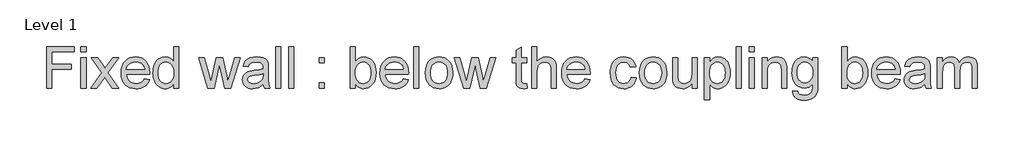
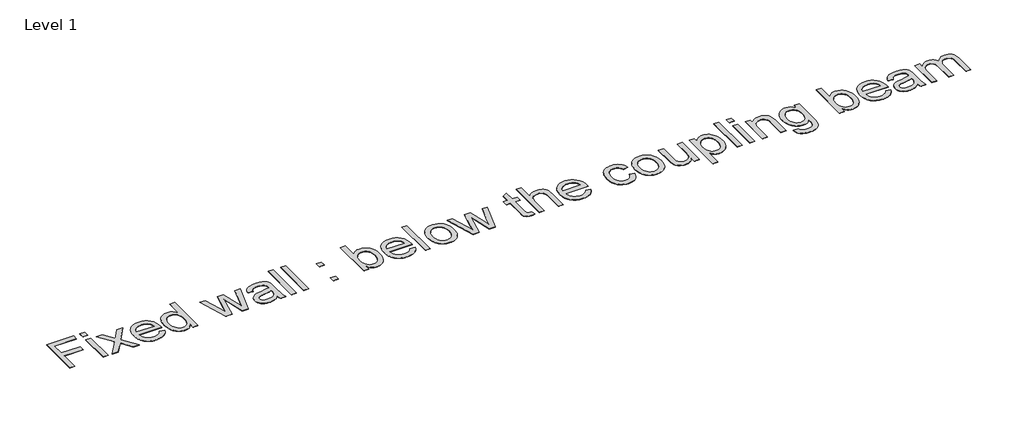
# One storey, part 36 of 80: 1 proxy.
"""IFC4 building model written with IfcOpenShell, lengths in millimetres."""

from ifc_helpers import new_model, si_unit, origin, origin_with_axes, place, context, project, spatial, polyline, outline, extrude, element, save

model = new_model("IFC4")

# Units and contexts
model_context = context("Model", 3, world=origin())
ifc_project = project(units=[si_unit("LENGTHUNIT", "METRE", prefix="MILLI")], contexts=[model_context])

# Site, building, storey
site = spatial("IfcSite", under=ifc_project)
building = spatial("IfcBuilding", under=site)
storey = spatial("IfcBuildingStorey", under=building, Name="Level 1", Elevation=0.0)

# Proxy
placement = place(None, origin())
element("IfcBuildingElementProxy", 1, Name="800mm Arial", ObjectType="800mm Arial", at=placement, inside=storey, context=model_context, shape_type="SweptSolid", body=[
    extrude(outline(polyline([(415501.4348573, -25390.2605409), (415501.4348573, -24590.8718426), (416038.524139, -24590.8718426), (416038.524139, -24690.7954299), (415601.3584446, -24690.7954299), (415601.3584446, -24928.1139497), (415976.0718969, -24928.1139497), (415976.0718969, -25028.037537), (415601.3584446, -25028.037537), (415601.3584446, -25390.2605409), (415501.4348573, -25390.2605409)])), origin_with_axes(), (0.0, 0.0, 1.0), 5.0),
    extrude(outline(polyline([(416163.4286231, -24690.7954299), (416163.4286231, -24590.8718426), (416263.3522104, -24590.8718426), (416263.3522104, -24690.7954299), (416163.4286231, -24690.7954299)])), origin_with_axes(), (0.0, 0.0, 1.0), 5.0),
    extrude(outline(polyline([(416163.4286231, -25390.2605409), (416163.4286231, -24803.2094656), (416263.3522104, -24803.2094656), (416263.3522104, -25390.2605409), (416163.4286231, -25390.2605409)])), origin_with_axes(), (0.0, 0.0, 1.0), 5.0),
    extrude(outline(polyline([(416350.7853493, -25390.2605409), (416564.2939518, -25095.1736972), (416363.2757977, -24803.2094656), (416483.4963636, -24803.2094656), (416580.4925021, -24943.7270102), (416625.7703776, -25010.0825174), (416664.9981921, -24955.8271321), (416775.4605952, -24803.2094656), (416895.6811612, -24803.2094656), (416684.5145177, -25095.1736972), (416887.874631, -25390.2605409), (416767.654065, -25390.2605409), (416645.2867032, -25212.8571408), (416622.8429287, -25180.4600402), (416471.0059152, -25390.2605409), (416350.7853493, -25390.2605409)])), origin_with_axes(), (0.0, 0.0, 1.0), 5.0),
    extrude(outline(polyline([(417386.3215879, -25215.3942631), (417484.2935426, -25227.8847116), (417469.2720707, -25267.1247238), (417448.9933886, -25301.7052133), (417423.4574963, -25331.6261801), (417392.6643937, -25356.8876241), (417356.9312212, -25376.9528464), (417316.5751191, -25391.285148), (417271.5960874, -25399.884529), (417221.994126, -25402.7509893), (417159.9931989, -25397.8048205), (417104.7497997, -25382.9663142), (417056.2639281, -25358.2354703), (417014.5355844, -25323.6122888), (416980.979702, -25280.0603884), (416957.0112145, -25228.5433875), (416942.6301221, -25169.0612863), (416937.8364246, -25101.6140846), (416942.6789129, -25031.8798136), (416957.2063778, -24970.4155855), (416981.4188193, -24917.2214004), (416997.1569063, -24893.725574), (417015.3162374, -24872.2972583), (417056.9348018, -24836.6067778), (417104.3106823, -24811.1135774), (417157.4438789, -24795.8176572), (417216.3343915, -24790.7190172), (417273.3281613, -24795.8054595), (417324.8695575, -24811.0647866), (417370.9585803, -24836.4969985), (417411.5952296, -24872.1020951), (417444.7668843, -24916.9286555), (417468.4609234, -24970.025259), (417482.6773469, -25031.3919054), (417487.4161547, -25101.0285949), (417486.8306649, -25127.9611243), (417037.7600119, -25127.9611243), (417043.5478222, -25167.8354171), (417055.0563555, -25202.7574423), (417072.2856117, -25232.7271999), (417095.2355909, -25257.7446898), (417122.6377319, -25277.4683764), (417153.2234735, -25291.556724), (417186.9928157, -25300.0097325), (417223.9457585, -25302.827402), (417277.1277459, -25297.6067849), (417321.9177133, -25281.9449336), (417341.1656894, -25269.954591), (417358.3156606, -25254.8660318), (417373.3676267, -25236.6792558), (417386.3215879, -25215.3942631)]), holes=[polyline([(417037.7600119, -25028.037537), (417387.4925674, -25028.037537), (417382.3573342, -24999.7632602), (417373.9775119, -24975.2458761), (417362.3531004, -24954.4853847), (417347.4840998, -24937.481786), (417320.2344302, -24916.9896441), (417289.2278678, -24902.3523998), (417254.4644127, -24893.5700533), (417215.944065, -24890.6426044), (417180.80858, -24892.9784647), (417148.5883461, -24899.9860453), (417119.2833634, -24911.6653465), (417092.8936318, -24928.0163681), (417070.7487011, -24948.2828525), (417054.1781208, -24971.7085421), (417043.1818911, -24998.2934369), (417037.7600119, -25028.037537)])]), origin_with_axes(), (0.0, 0.0, 1.0), 5.0),
    extrude(outline(polyline([(417949.5627459, -25390.2605409), (417949.5627459, -25295.9966881), (417919.6661746, -25342.7016949), (417902.348485, -25361.0500904), (417883.4511928, -25376.062414), (417862.974298, -25387.7386657), (417840.9178006, -25396.0788455), (417817.2817006, -25401.0829534), (417792.065998, -25402.7509893), (417759.0834077, -25400.335844), (417727.4669601, -25393.0904081), (417697.2166554, -25381.0146816), (417668.3324934, -25364.1086645), (417641.7171043, -25342.8785616), (417618.2731181, -25317.8305774), (417598.0005349, -25288.964712), (417580.8993545, -25256.2809654), (417567.3233105, -25220.4014204), (417557.6261362, -25181.9481601), (417551.8078316, -25140.9211843), (417549.8683968, -25097.320493), (417551.6553603, -25054.5187513), (417557.016251, -25013.7418284), (417565.9510689, -24974.9897243), (417578.4598138, -24938.262439), (417594.5363871, -24904.6333704), (417614.1746898, -24875.1759164), (417637.3747219, -24849.890077), (417664.1364834, -24828.7758522), (417693.5146523, -24812.1259868), (417724.5639067, -24800.2332259), (417757.2842464, -24793.0975693), (417791.6756715, -24790.7190172), (417816.8273362, -24792.4205968), (417840.5640672, -24797.5253357), (417862.8858647, -24806.0332339), (417883.7927285, -24817.9442914), (417920.4346299, -24849.2435987), (417949.5627459, -24888.6909719), (417949.5627459, -24590.8718426), (418049.4863332, -24590.8718426), (418049.4863332, -25390.2605409), (417949.5627459, -25390.2605409)]), holes=[polyline([(417649.7919841, -25096.9301665), (417652.6096536, -25145.3855438), (417661.0626621, -25187.3151496), (417675.1510097, -25222.7189841), (417694.8746963, -25251.5970472), (417718.4284618, -25274.0103274), (417744.0070461, -25290.0198133), (417771.6104492, -25299.6255049), (417801.238671, -25302.827402), (417831.0071665, -25299.7718773), (417858.4459006, -25290.6053031), (417883.5548733, -25275.3276794), (417906.3340846, -25253.9390063), (417925.246624, -25226.2685158), (417938.7555806, -25192.1454402), (417946.8609546, -25151.5697794), (417949.5627459, -25104.5415335), (417946.8121638, -25052.9818407), (417938.5604174, -25008.7651654), (417924.8075066, -24971.8915076), (417905.5534316, -24942.3608674), (417882.2741144, -24919.7341274), (417856.4454772, -24903.5721702), (417828.06752, -24893.8749959), (417797.1402427, -24890.6426044), (417766.926531, -24893.74692), (417739.3231279, -24903.0598666), (417714.3300334, -24918.5814444), (417691.9472474, -24940.3116532), (417673.5043197, -24968.7262036), (417660.3307999, -25004.3008059), (417652.426688, -25047.0354602), (417649.7919841, -25096.9301665)])]), origin_with_axes(), (0.0, 0.0, 1.0), 5.0),
    extrude(outline(polyline([(418609.0193894, -25390.2605409), (418430.4450098, -24803.2094656), (418534.2718622, -24803.2094656), (418635.5615923, -25145.7209806), (418665.811897, -25268.0883424), (418690.5976306, -25150.2097355), (418771.2000555, -24803.2094656), (418890.2496419, -24803.2094656), (418970.4617403, -25149.2339192), (418992.5151883, -25255.9882205), (419024.1316358, -25143.3790215), (419125.6165292, -24803.2094656), (419229.8337081, -24803.2094656), (419049.8931857, -25390.2605409), (418929.08713, -25390.2605409), (418852.3879702, -25045.9925566), (418830.139359, -24938.6527655), (418731.1915879, -25390.2605409), (418609.0193894, -25390.2605409)])), origin_with_axes(), (0.0, 0.0, 1.0), 5.0),
    extrude(outline(polyline([(419673.2446267, -25315.3178504), (419625.5028151, -25356.2533435), (419601.1013092, -25371.415089), (419576.3460699, -25383.0395004), (419524.6522024, -25397.8231171), (419469.2990238, -25402.7509893), (419424.8079002, -25399.7869474), (419385.7935454, -25390.8948215), (419352.2559596, -25376.0746117), (419324.1951426, -25355.326318), (419302.0380142, -25329.9672924), (419286.2114938, -25301.3148868), (419276.7155816, -25269.3691013), (419273.5502776, -25234.1299358), (419278.3317773, -25192.7065346), (419292.6762767, -25155.0888169), (419314.8029109, -25122.8868796), (419342.9308152, -25097.7108195), (419375.9865918, -25078.682402), (419412.8968427, -25064.9233924), (419499.3541653, -25049.8958217), (419601.52213, -25034.0875979), (419672.659137, -25015.5470886), (419673.2446267, -24993.2984773), (419671.5247505, -24969.0738381), (419666.3651219, -24948.7036732), (419657.765741, -24932.1879827), (419645.7266076, -24919.5267664), (419624.9173254, -24906.8899455), (419599.5704974, -24897.8636449), (419569.6861238, -24892.4478646), (419535.2642044, -24890.6426044), (419475.7394112, -24895.4484996), (419452.710147, -24901.4558686), (419434.1696376, -24909.8661852), (419418.9347059, -24921.3381254), (419405.8221746, -24936.5303651), (419394.8320437, -24955.4429044), (419385.9643133, -24978.0757433), (419286.040726, -24965.5852949), (419303.3858604, -24910.9395831), (419315.2603248, -24888.0079005), (419329.2693873, -24868.0036667), (419346.0168342, -24850.5243575), (419366.1064519, -24835.1674488), (419389.5382404, -24821.9329405), (419416.3121996, -24810.8208326), (419477.7154392, -24795.744471), (419548.1449794, -24790.7190172), (419615.6958615, -24795.1589812), (419669.24378, -24808.4788735), (419709.6181787, -24828.5075027), (419737.6485014, -24853.0736776), (419756.2378015, -24883.4459594), (419768.2891326, -24920.8929092), (419771.9484437, -24955.4368056), (419773.168214, -25008.3260481), (419773.168214, -25132.6450424), (419774.4367752, -25240.9362543), (419778.2424587, -25306.242759), (419785.7562441, -25349.15428), (419798.1491109, -25390.2605409), (419698.2255236, -25390.2605409), (419682.2221365, -25355.5214813), (419673.2446267, -25315.3178504)]), holes=[polyline([(419673.2446267, -25115.4706759), (419606.1084665, -25132.1083435), (419512.0397769, -25146.1113071), (419460.1995369, -25153.7714649), (419426.0703625, -25162.3098574), (419403.6997742, -25173.3853722), (419387.1352928, -25188.656897), (419376.8892218, -25206.9534523), (419373.4738649, -25227.1040585), (419375.3340146, -25242.6317351), (419380.914464, -25256.8176643), (419390.2152129, -25269.6618461), (419403.2362615, -25281.1642806), (419419.8556325, -25290.6418962), (419439.9513491, -25297.4116217), (419490.5718187, -25302.827402), (419544.2417142, -25296.8505273), (419568.7347029, -25289.3794339), (419591.6663855, -25278.9199031), (419630.1135471, -25252.4996773), (419656.8509132, -25221.0539976), (419668.707081, -25188.656897), (419672.659137, -25143.769348), (419673.2446267, -25115.4706759)])]), origin_with_axes(), (0.0, 0.0, 1.0), 5.0),
    extrude(outline(polyline([(419910.5631466, -25390.2605409), (419910.5631466, -24590.8718426), (420010.4867338, -24590.8718426), (420010.4867338, -25390.2605409), (419910.5631466, -25390.2605409)])), origin_with_axes(), (0.0, 0.0, 1.0), 5.0),
    extrude(outline(polyline([(420160.3721148, -25390.2605409), (420160.3721148, -24590.8718426), (420260.2957021, -24590.8718426), (420260.2957021, -25390.2605409), (420160.3721148, -25390.2605409)])), origin_with_axes(), (0.0, 0.0, 1.0), 5.0),
    extrude(outline(polyline([(420747.4231901, -24903.1330529), (420747.4231901, -24803.2094656), (420847.3467774, -24803.2094656), (420847.3467774, -24903.1330529), (420747.4231901, -24903.1330529)])), origin_with_axes(), (0.0, 0.0, 1.0), 5.0),
    extrude(outline(polyline([(420747.4231901, -25390.2605409), (420747.4231901, -25290.3369536), (420847.3467774, -25290.3369536), (420847.3467774, -25390.2605409), (420747.4231901, -25390.2605409)])), origin_with_axes(), (0.0, 0.0, 1.0), 5.0),
    extrude(outline(polyline([(421446.8883012, -25390.2605409), (421346.9647139, -25390.2605409), (421346.9647139, -24590.8718426), (421446.8883012, -24590.8718426), (421446.8883012, -24887.3248291), (421479.7489145, -24845.0597864), (421516.8543286, -24814.8704701), (421536.998836, -24804.3042095), (421558.2045436, -24796.7568804), (421603.7995594, -24790.7190172), (421655.2738682, -24796.1591929), (421703.9183099, -24812.4797202), (421746.9518079, -24838.655992), (421781.593286, -24873.6634011), (421808.745374, -24917.1604119), (421829.3107022, -24968.8054886), (421842.2646633, -25026.4518355), (421846.5826504, -25087.9526567), (421842.112192, -25158.9188958), (421828.700817, -25221.3467425), (421806.3485253, -25275.2361966), (421775.0553169, -25320.5872584), (421737.4924889, -25356.5338907), (421696.3313383, -25382.2100566), (421651.5718652, -25397.6157561), (421603.2140696, -25402.7509893), (421578.9985787, -25401.0951511), (421556.1187363, -25396.1276363), (421534.5745424, -25387.848445), (421514.3659971, -25376.2575773), (421495.4931003, -25361.355033), (421477.9558521, -25343.1408122), (421446.8883012, -25296.7773411), (421446.8883012, -25390.2605409)]), holes=[polyline([(421446.8883012, -25092.6365749), (421448.5959797, -25137.6704963), (421453.7190152, -25175.9712853), (421462.2574076, -25207.5389421), (421474.2111571, -25232.3734665), (421498.4235986, -25263.1970633), (421526.5637006, -25285.2139181), (421558.6314632, -25298.4240311), (421594.6268863, -25302.827402), (421624.5112599, -25299.5828129), (421652.2976286, -25289.8490455), (421677.9859922, -25273.6260998), (421701.5763508, -25250.9139758), (421721.3000374, -25221.7736621), (421735.388385, -25186.2661471), (421743.8413935, -25144.3914309), (421746.6590631, -25096.1495135), (421743.9572717, -25046.9927683), (421735.8518977, -25004.7155278), (421722.3429411, -24969.3177922), (421703.4304018, -24940.7995613), (421680.6877835, -24918.8558927), (421655.6885902, -24903.1818437), (421628.4328216, -24893.7774143), (421598.9204779, -24890.6426044), (421569.0361043, -24893.8871936), (421541.2497357, -24903.620961), (421515.561372, -24919.8439067), (421491.9710134, -24942.5560307), (421472.2473268, -24971.4035995), (421458.1589792, -25006.0328798), (421449.7059707, -25046.4438716), (421446.8883012, -25092.6365749)])]), origin_with_axes(), (0.0, 0.0, 1.0), 5.0),
    extrude(outline(polyline([(422370.0105041, -25215.3942631), (422467.9824588, -25227.8847116), (422452.9609869, -25267.1247238), (422432.6823048, -25301.7052133), (422407.1464125, -25331.6261801), (422376.3533099, -25356.8876241), (422340.6201375, -25376.9528464), (422300.2640353, -25391.285148), (422255.2850036, -25399.884529), (422205.6830422, -25402.7509893), (422143.6821152, -25397.8048205), (422088.4387159, -25382.9663142), (422039.9528444, -25358.2354703), (421998.2245006, -25323.6122888), (421964.6686182, -25280.0603884), (421940.7001308, -25228.5433875), (421926.3190383, -25169.0612863), (421921.5253408, -25101.6140846), (421926.3678291, -25031.8798136), (421940.895294, -24970.4155855), (421965.1077355, -24917.2214004), (421980.8458225, -24893.725574), (421999.0051536, -24872.2972583), (422040.6237181, -24836.6067778), (422087.9995986, -24811.1135774), (422141.1327951, -24795.8176572), (422200.0233078, -24790.7190172), (422257.0170775, -24795.8054595), (422308.5584737, -24811.0647866), (422354.6474965, -24836.4969985), (422395.2841458, -24872.1020951), (422428.4558006, -24916.9286555), (422452.1498397, -24970.025259), (422466.3662631, -25031.3919054), (422471.1050709, -25101.0285949), (422470.5195812, -25127.9611243), (422021.4489281, -25127.9611243), (422027.2367384, -25167.8354171), (422038.7452717, -25202.7574423), (422055.9745279, -25232.7271999), (422078.9245071, -25257.7446898), (422106.3266481, -25277.4683764), (422136.9123897, -25291.556724), (422170.6817319, -25300.0097325), (422207.6346748, -25302.827402), (422260.8166621, -25297.6067849), (422305.6066295, -25281.9449336), (422324.8546056, -25269.954591), (422342.0045768, -25254.8660318), (422357.056543, -25236.6792558), (422370.0105041, -25215.3942631)]), holes=[polyline([(422021.4489281, -25028.037537), (422371.1814836, -25028.037537), (422366.0462505, -24999.7632602), (422357.6664281, -24975.2458761), (422346.0420167, -24954.4853847), (422331.1730161, -24937.481786), (422303.9233464, -24916.9896441), (422272.916784, -24902.3523998), (422238.153329, -24893.5700533), (422199.6329812, -24890.6426044), (422164.4974962, -24892.9784647), (422132.2772624, -24899.9860453), (422102.9722796, -24911.6653465), (422076.5825481, -24928.0163681), (422054.4376173, -24948.2828525), (422037.8670371, -24971.7085421), (422026.8708073, -24998.2934369), (422021.4489281, -25028.037537)])]), origin_with_axes(), (0.0, 0.0, 1.0), 5.0),
    extrude(outline(polyline([(422571.0286582, -25390.2605409), (422571.0286582, -24590.8718426), (422670.9522455, -24590.8718426), (422670.9522455, -25390.2605409), (422571.0286582, -25390.2605409)])), origin_with_axes(), (0.0, 0.0, 1.0), 5.0),
    extrude(outline(polyline([(422795.8567296, -25096.7350032), (422801.2603123, -25020.7067172), (422808.0147906, -24986.6354818), (422817.4710603, -24955.1928515), (422829.6291213, -24926.3788264), (422844.4889736, -24900.1934063), (422862.0506172, -24876.6365914), (422882.3140522, -24855.7083815), (422920.3952826, -24827.2755346), (422962.428569, -24806.9663582), (423008.4139113, -24794.7808524), (423058.3513095, -24790.7190172), (423113.4788306, -24795.6651859), (423163.3247461, -24810.5036923), (423207.8890559, -24835.2345362), (423247.1717601, -24869.8577176), (423279.2334239, -24913.2022571), (423302.1346122, -24964.0971751), (423315.8753252, -25022.5424715), (423320.4555629, -25088.5381465), (423318.4307441, -25142.0250764), (423312.3562878, -25189.4863409), (423302.2321939, -25230.9219397), (423288.0584624, -25266.3318731), (423270.01196, -25296.9176147), (423248.2695534, -25323.8806383), (423222.8312427, -25347.220944), (423193.6970279, -25366.9385318), (423162.0012953, -25382.6064819), (423128.8784313, -25393.7978749), (423094.3284361, -25400.5127107), (423058.3513095, -25402.7509893), (423002.41874, -25397.8231171), (422952.1093118, -25383.0395004), (422907.4230249, -25358.4001393), (422868.3598794, -25323.9050337), (422836.6397514, -25280.1396735), (422813.9825171, -25227.6895483), (422800.3881765, -25166.5546582), (422795.8567296, -25096.7350032)]), holes=[polyline([(422895.7803169, -25096.53984), (422898.6711727, -25145.0074149), (422907.3437399, -25186.9736139), (422921.7980186, -25222.4384369), (422942.0340087, -25251.401884), (422966.6489744, -25273.9005481), (422994.2401798, -25289.9710225), (423024.8076248, -25299.6133071), (423058.3513095, -25302.827402), (423091.7242264, -25299.5950106), (423122.1696944, -25289.8978363), (423149.6877135, -25273.7358791), (423174.2782839, -25251.1091391), (423194.514274, -25221.859046), (423208.9685527, -25185.8270298), (423217.6411199, -25143.0130904), (423220.5319756, -25093.4172279), (423217.6228233, -25046.4865636), (423208.8953665, -25005.6181579), (423194.349605, -24970.8120109), (423173.985539, -24942.0681225), (423149.3034859, -24919.5694584), (423121.8037633, -24903.498984), (423091.4863712, -24893.8566993), (423058.3513095, -24890.6426044), (423024.8076248, -24893.8445016), (422994.2401798, -24903.4501931), (422966.6489744, -24919.459679), (422942.0340087, -24941.8729593), (422921.7980186, -24970.7510224), (422907.3437399, -25006.1548568), (422898.6711727, -25048.0844627), (422895.7803169, -25096.53984)])]), origin_with_axes(), (0.0, 0.0, 1.0), 5.0),
    extrude(outline(polyline([(423530.2560636, -25390.2605409), (423351.681684, -24803.2094656), (423455.5085364, -24803.2094656), (423556.7982665, -25145.7209806), (423587.0485712, -25268.0883424), (423611.8343048, -25150.2097355), (423692.4367297, -24803.2094656), (423811.4863161, -24803.2094656), (423891.6984145, -25149.2339192), (423913.7518625, -25255.9882205), (423945.36831, -25143.3790215), (424046.8532034, -24803.2094656), (424151.0703823, -24803.2094656), (423971.1298599, -25390.2605409), (423850.3238041, -25390.2605409), (423773.6246444, -25045.9925566), (423751.3760331, -24938.6527655), (423652.4282621, -25390.2605409), (423530.2560636, -25390.2605409)])), origin_with_axes(), (0.0, 0.0, 1.0), 5.0),
    extrude(outline(polyline([(424744.3666818, -25306.9258304), (424756.8571303, -25393.1879898), (424717.28778, -25400.3602394), (424682.109603, -25402.7509893), (424634.1482328, -25398.6037701), (424598.384566, -25386.1621125), (424573.1109243, -25366.9873226), (424556.6196292, -25342.6407063), (424547.5445377, -25300.8269786), (424544.5195073, -25229.2508544), (424544.5195073, -24903.1330529), (424469.5768168, -24903.1330529), (424469.5768168, -24803.2094656), (424544.5195073, -24803.2094656), (424544.5195073, -24660.5451251), (424644.4430946, -24601.8009849), (424644.4430946, -24803.2094656), (424744.3666818, -24803.2094656), (424744.3666818, -24903.1330529), (424644.4430946, -24903.1330529), (424644.4430946, -25226.3234055), (424645.7604465, -25259.2084142), (424649.7125025, -25277.8465052), (424656.6164027, -25288.1657624), (424666.7892874, -25296.0942697), (424681.206973, -25301.1441189), (424700.8452757, -25302.827402), (424744.3666818, -25306.9258304)])), origin_with_axes(), (0.0, 0.0, 1.0), 5.0),
    extrude(outline(polyline([(424844.2902691, -25390.2605409), (424844.2902691, -24590.8718426), (424944.2138564, -24590.8718426), (424944.2138564, -24884.7877068), (424980.9167463, -24843.6326551), (425022.1327866, -24814.2361896), (425067.8619771, -24796.5983103), (425118.1043179, -24790.7190172), (425149.3426366, -24792.3230152), (425178.458555, -24797.1350092), (425205.4520729, -24805.1549993), (425230.3231904, -24816.3829854), (425252.4376269, -24830.4408387), (425271.1611018, -24846.9504304), (425286.4936151, -24865.9117605), (425298.4351669, -24887.3248291), (425307.4004789, -24912.5130869), (425313.8042733, -24942.7999847), (425318.9273088, -25018.6697007), (425318.9273088, -25390.2605409), (425219.0037215, -25390.2605409), (425219.0037215, -25029.0133533), (425217.0154958, -24995.2745053), (425211.0508188, -24966.4635296), (425201.1096904, -24942.5804261), (425187.1921107, -24923.6251948), (425169.6274176, -24909.1953115), (425148.7449492, -24898.888252), (425124.5447054, -24892.7040163), (425097.0266862, -24890.6426044), (425054.7982366, -24896.2047573), (425015.1557001, -24912.8912157), (424997.3592507, -24925.0035353), (424982.3194822, -24939.0918829), (424970.0363948, -24955.1562584), (424960.5099883, -24973.1966619), (424948.2878894, -25018.5233282), (424944.2138564, -25078.3896571), (424944.2138564, -25390.2605409), (424844.2902691, -25390.2605409)])), origin_with_axes(), (0.0, 0.0, 1.0), 5.0),
    extrude(outline(polyline([(425867.3360593, -25215.3942631), (425965.3080141, -25227.8847116), (425950.2865422, -25267.1247238), (425930.0078601, -25301.7052133), (425904.4719677, -25331.6261801), (425873.6788652, -25356.8876241), (425837.9456927, -25376.9528464), (425797.5895906, -25391.285148), (425752.6105588, -25399.884529), (425703.0085974, -25402.7509893), (425641.0076704, -25397.8048205), (425585.7642711, -25382.9663142), (425537.2783996, -25358.2354703), (425495.5500558, -25323.6122888), (425461.9941734, -25280.0603884), (425438.025686, -25228.5433875), (425423.6445936, -25169.0612863), (425418.8508961, -25101.6140846), (425423.6933844, -25031.8798136), (425438.2208493, -24970.4155855), (425462.4332908, -24917.2214004), (425478.1713777, -24893.725574), (425496.3307089, -24872.2972583), (425537.9492733, -24836.6067778), (425585.3251538, -24811.1135774), (425638.4583504, -24795.8176572), (425697.348863, -24790.7190172), (425754.3426327, -24795.8054595), (425805.884029, -24811.0647866), (425851.9730518, -24836.4969985), (425892.6097011, -24872.1020951), (425925.7813558, -24916.9286555), (425949.4753949, -24970.025259), (425963.6918184, -25031.3919054), (425968.4306262, -25101.0285949), (425967.8451364, -25127.9611243), (425518.7744834, -25127.9611243), (425524.5622937, -25167.8354171), (425536.070827, -25202.7574423), (425553.3000832, -25232.7271999), (425576.2500624, -25257.7446898), (425603.6522034, -25277.4683764), (425634.2379449, -25291.556724), (425668.0072872, -25300.0097325), (425704.96023, -25302.827402), (425758.1422174, -25297.6067849), (425802.9321847, -25281.9449336), (425822.1801609, -25269.954591), (425839.3301321, -25254.8660318), (425854.3820982, -25236.6792558), (425867.3360593, -25215.3942631)]), holes=[polyline([(425518.7744834, -25028.037537), (425868.5070389, -25028.037537), (425863.3718057, -24999.7632602), (425854.9919834, -24975.2458761), (425843.3675719, -24954.4853847), (425828.4985713, -24937.481786), (425801.2489016, -24916.9896441), (425770.2423393, -24902.3523998), (425735.4788842, -24893.5700533), (425696.9585365, -24890.6426044), (425661.8230515, -24892.9784647), (425629.6028176, -24899.9860453), (425600.2978349, -24911.6653465), (425573.9081033, -24928.0163681), (425551.7631726, -24948.2828525), (425535.1925923, -24971.7085421), (425524.1963626, -24998.2934369), (425518.7744834, -25028.037537)])]), origin_with_axes(), (0.0, 0.0, 1.0), 5.0),
    extrude(outline(polyline([(426755.3288761, -25177.9229179), (426855.2524634, -25190.4133663), (426844.3843096, -25237.5635893), (426827.3929085, -25279.2858342), (426804.2782604, -25315.5801011), (426775.040365, -25346.4463898), (426740.9111905, -25371.0796521), (426703.122705, -25388.6748394), (426661.6749084, -25399.2319519), (426616.5678008, -25402.7509893), (426560.5254519, -25397.8414137), (426510.2770123, -25383.1126866), (426465.8224817, -25358.5648083), (426427.1618604, -25324.1977786), (426395.868652, -25280.6580759), (426373.5163603, -25228.5921784), (426360.1049853, -25168.0000861), (426355.6345269, -25098.8817991), (426357.5434675, -25052.9391487), (426363.2702893, -25009.9605403), (426372.8149924, -24969.9459739), (426386.1775766, -24932.8954495), (426403.4495248, -24899.5530269), (426424.7223197, -24870.6627661), (426449.9959614, -24846.2246671), (426479.2704499, -24826.2387298), (426511.2223343, -24810.6988555), (426544.5281638, -24799.5989453), (426579.1879383, -24792.9389992), (426615.201658, -24790.7190172), (426659.5342115, -24793.768443), (426699.6341618, -24802.9167207), (426735.501509, -24818.1638501), (426767.1362531, -24839.5098313), (426794.0016951, -24866.4667561), (426815.5611361, -24898.5467163), (426831.8145761, -24935.7497121), (426842.762015, -24978.0757433), (426742.8384277, -24990.5661917), (426735.0379963, -24967.225886), (426724.7126403, -24946.9715993), (426711.8623596, -24929.8033316), (426696.4871543, -24915.7210829), (426678.9773509, -24904.7492486), (426659.7232759, -24896.9122241), (426638.7249292, -24892.2100093), (426615.982311, -24890.6426044), (426582.0300033, -24893.7286234), (426551.4076685, -24902.9866804), (426524.1153069, -24918.4167754), (426500.1529183, -24940.0189083), (426480.6426915, -24968.2931851), (426466.7068153, -25003.7397115), (426458.3452895, -25046.3584877), (426455.5581142, -25096.1495135), (426458.284301, -25146.690698), (426466.4628612, -25189.8034811), (426480.0937949, -25225.4878628), (426499.177102, -25253.743843), (426522.6637802, -25275.2179001), (426549.5048268, -25290.5565123), (426579.7002419, -25299.7596796), (426613.2500254, -25302.827402), (426640.2862353, -25300.9123626), (426664.9926838, -25295.1672442), (426687.3693709, -25285.5920469), (426707.4162967, -25272.1867708), (426724.5723667, -25254.8050432), (426738.2764866, -25233.3004919), (426748.5286564, -25207.6731168), (426755.3288761, -25177.9229179)])), origin_with_axes(), (0.0, 0.0, 1.0), 5.0),
    extrude(outline(polyline([(426917.7047055, -25096.7350032), (426923.1082881, -25020.7067172), (426929.8627665, -24986.6354818), (426939.3190361, -24955.1928515), (426951.4770971, -24926.3788264), (426966.3369494, -24900.1934063), (426983.8985931, -24876.6365914), (427004.1620281, -24855.7083815), (427042.2432585, -24827.2755346), (427084.2765448, -24806.9663582), (427130.2618871, -24794.7808524), (427180.1992854, -24790.7190172), (427235.3268065, -24795.6651859), (427285.1727219, -24810.5036923), (427329.7370317, -24835.2345362), (427369.019736, -24869.8577176), (427401.0813997, -24913.2022571), (427423.982588, -24964.0971751), (427437.7233011, -25022.5424715), (427442.3035387, -25088.5381465), (427440.27872, -25142.0250764), (427434.2042636, -25189.4863409), (427424.0801697, -25230.9219397), (427409.9064382, -25266.3318731), (427391.8599358, -25296.9176147), (427370.1175293, -25323.8806383), (427344.6792186, -25347.220944), (427315.5450037, -25366.9385318), (427283.8492711, -25382.6064819), (427250.7264072, -25393.7978749), (427216.1764119, -25400.5127107), (427180.1992854, -25402.7509893), (427124.2667158, -25397.8231171), (427073.9572876, -25383.0395004), (427029.2710008, -25358.4001393), (426990.2078552, -25323.9050337), (426958.4877272, -25280.1396735), (426935.8304929, -25227.6895483), (426922.2361523, -25166.5546582), (426917.7047055, -25096.7350032)]), holes=[polyline([(427017.6282928, -25096.53984), (427020.5191485, -25145.0074149), (427029.1917157, -25186.9736139), (427043.6459944, -25222.4384369), (427063.8819845, -25251.401884), (427088.4969502, -25273.9005481), (427116.0881556, -25289.9710225), (427146.6556007, -25299.6133071), (427180.1992854, -25302.827402), (427213.5722022, -25299.5950106), (427244.0176702, -25289.8978363), (427271.5356894, -25273.7358791), (427296.1262597, -25251.1091391), (427316.3622498, -25221.859046), (427330.8165285, -25185.8270298), (427339.4890957, -25143.0130904), (427342.3799515, -25093.4172279), (427339.4707992, -25046.4865636), (427330.7433423, -25005.6181579), (427316.1975808, -24970.8120109), (427295.8335148, -24942.0681225), (427271.1514617, -24919.5694584), (427243.6517391, -24903.498984), (427213.334347, -24893.8566993), (427180.1992854, -24890.6426044), (427146.6556007, -24893.8445016), (427116.0881556, -24903.4501931), (427088.4969502, -24919.459679), (427063.8819845, -24941.8729593), (427043.6459944, -24970.7510224), (427029.1917157, -25006.1548568), (427020.5191485, -25048.0844627), (427017.6282928, -25096.53984)])]), origin_with_axes(), (0.0, 0.0, 1.0), 5.0),
    extrude(outline(polyline([(427929.4310268, -25390.2605409), (427929.4310268, -25289.3611373), (427912.0980901, -25315.9368839), (427893.2770335, -25338.9691976), (427872.9678572, -25358.4580784), (427851.170561, -25374.4035263), (427827.8851449, -25386.8055414), (427803.1116091, -25395.6641236), (427776.8499534, -25400.9792729), (427749.1001779, -25402.7509893), (427700.4313408, -25397.7743263), (427655.1290699, -25382.8443372), (427617.1210257, -25360.4005627), (427590.3348688, -25332.8825435), (427572.3066629, -25299.4608359), (427560.5724721, -25259.3059958), (427556.1812989, -25221.4443241), (427554.7175745, -25166.4082858), (427554.7175745, -24803.2094656), (427654.6411617, -24803.2094656), (427654.6411617, -25119.373941), (427656.153677, -25182.6068361), (427660.6912227, -25221.2491608), (427666.6741963, -25239.2590701), (427675.2552807, -25255.2319629), (427686.434476, -25269.1678391), (427700.2117821, -25281.0666989), (427716.1724772, -25290.5870065), (427733.9018393, -25297.3872263), (427774.6665644, -25302.827402), (427817.7732487, -25297.2652492), (427858.0988566, -25280.5787908), (427876.1453589, -25268.4481746), (427891.3497964, -25254.3049374), (427903.7121689, -25238.1490791), (427913.2324765, -25219.9805997), (427925.3813892, -25172.9706503), (427929.4310268, -25108.6399619), (427929.4310268, -24803.2094656), (428029.3546141, -24803.2094656), (428029.3546141, -25390.2605409), (427929.4310268, -25390.2605409)])), origin_with_axes(), (0.0, 0.0, 1.0), 5.0),
    extrude(outline(polyline([(428166.7495466, -25615.0886123), (428166.7495466, -24803.2094656), (428266.6731339, -24803.2094656), (428266.6731339, -24901.1814203), (428299.2653977, -24852.8541189), (428317.0252541, -24833.8683934), (428335.7609267, -24818.3346179), (428356.0091145, -24806.2527926), (428378.3065166, -24797.6229173), (428402.6531328, -24792.4449922), (428429.0489633, -24790.7190172), (428463.8978022, -24793.1341625), (428496.6242408, -24800.3795983), (428527.228279, -24812.4553248), (428555.7099167, -24829.3613419), (428581.4470711, -24850.6585323), (428603.8176594, -24875.9077786), (428622.8216815, -24905.1090808), (428638.4591374, -24938.262439), (428650.6690386, -24974.2334667), (428659.3903967, -25011.8877775), (428664.6232115, -25051.2253714), (428666.3674831, -25092.2462483), (428664.397554, -25136.1030914), (428658.4877666, -25177.7033592), (428648.638121, -25217.047052), (428634.8486172, -25254.1341695), (428617.3083195, -25287.9949945), (428596.2062924, -25317.6598095), (428571.5425359, -25343.1286145), (428543.3170499, -25364.4014094), (428512.9142739, -25381.1793506), (428481.7186471, -25393.1635943), (428449.7301696, -25400.3541406), (428416.9488414, -25402.7509893), (428393.3645816, -25401.1469913), (428371.0122899, -25396.3349973), (428349.8919662, -25388.3150072), (428330.0036106, -25377.0870211), (428294.8986199, -25348.0320913), (428266.6731339, -25312.1952383), (428266.6731339, -25615.0886123), (428166.7495466, -25615.0886123)]), holes=[polyline([(428266.6731339, -25101.4189214), (428269.3749252, -25149.5754549), (428277.4802992, -25190.9988561), (428290.9892559, -25225.6891249), (428309.9017952, -25253.6462614), (428332.6688088, -25275.1630104), (428357.7411884, -25290.5321169), (428385.118934, -25299.7535807), (428414.8020455, -25302.827402), (428444.9120767, -25299.6438014), (428472.7899281, -25290.0929995), (428498.4355998, -25274.1749964), (428521.8490917, -25251.8897921), (428541.3593185, -25222.9202462), (428555.2951948, -25186.9492185), (428563.6567205, -25143.976709), (428566.4438958, -25094.0027176), (428563.7238079, -25046.260906), (428555.5635442, -25004.9106911), (428541.9631048, -24969.9520728), (428522.9224896, -24941.3850511), (428500.1005863, -24919.1852307), (428475.1562826, -24903.3282161), (428448.0895785, -24893.8140074), (428418.9004739, -24890.6426044), (428389.8028522, -24894.0152695), (428362.4251066, -24904.1332645), (428336.7672372, -24920.9965897), (428312.8292441, -24944.6052448), (428292.6359459, -24974.6420898), (428278.2121614, -25010.7899842), (428269.5578908, -25053.0489281), (428266.6731339, -25101.4189214)])]), origin_with_axes(), (0.0, 0.0, 1.0), 5.0),
    extrude(outline(polyline([(428778.7815188, -25390.2605409), (428778.7815188, -24590.8718426), (428878.7051061, -24590.8718426), (428878.7051061, -25390.2605409), (428778.7815188, -25390.2605409)])), origin_with_axes(), (0.0, 0.0, 1.0), 5.0),
    extrude(outline(polyline([(429028.590487, -24690.7954299), (429028.590487, -24590.8718426), (429128.5140743, -24590.8718426), (429128.5140743, -24690.7954299), (429028.590487, -24690.7954299)])), origin_with_axes(), (0.0, 0.0, 1.0), 5.0),
    extrude(outline(polyline([(429028.590487, -25390.2605409), (429028.590487, -24803.2094656), (429128.5140743, -24803.2094656), (429128.5140743, -25390.2605409), (429028.590487, -25390.2605409)])), origin_with_axes(), (0.0, 0.0, 1.0), 5.0),
    extrude(outline(polyline([(429278.3994553, -25390.2605409), (429278.3994553, -24803.2094656), (429378.3230425, -24803.2094656), (429378.3230425, -24885.1780333), (429394.8082389, -24863.0392014), (429413.0377068, -24843.8522137), (429433.0114463, -24827.6170703), (429454.7294574, -24814.3337712), (429478.1917402, -24804.0023163), (429503.3982945, -24796.6227057), (429559.044218, -24790.7190172), (429608.2985448, -24795.4761215), (429653.4056525, -24809.7474347), (429691.0233702, -24831.7520918), (429717.8095271, -24859.7092283), (429735.9841054, -24893.5456579), (429747.767087, -24933.1881943), (429751.7191429, -24971.0986569), (429753.0364949, -25029.7940063), (429753.0364949, -25390.2605409), (429653.1129076, -25390.2605409), (429653.1129076, -25043.260271), (429650.2342496, -24991.5907988), (429641.5982755, -24954.8513158), (429625.6680747, -24928.5286716), (429600.9067365, -24908.1097159), (429569.1683119, -24895.0093823), (429532.3068519, -24890.6426044), (429501.9650643, -24893.0943429), (429473.7822703, -24900.4495581), (429447.7584699, -24912.7082501), (429423.8936629, -24929.870419), (429403.9565165, -24953.8876972), (429389.7156976, -24986.7117174), (429381.1712063, -25028.3424796), (429378.3230425, -25078.7799836), (429378.3230425, -25390.2605409), (429278.3994553, -25390.2605409)])), origin_with_axes(), (0.0, 0.0, 1.0), 5.0),
    extrude(outline(polyline([(429865.4505306, -25440.2223346), (429965.3741179, -25452.712783), (429969.5945233, -25469.5456138), (429976.4008419, -25483.938904), (429985.7930736, -25495.8926535), (429997.7712185, -25505.4068622), (430017.1533694, -25515.1406296), (430039.7801094, -25522.0933206), (430094.7673569, -25527.6554734), (430125.9690825, -25526.0819697), (430153.4139155, -25521.3614584), (430177.1018557, -25513.4939396), (430197.0329033, -25502.4794134), (430213.6217801, -25488.6228221), (430227.283208, -25472.2291086), (430238.0171871, -25453.2982727), (430245.8237174, -25431.8303145), (430251.2394977, -25388.8456073), (430252.6544314, -25315.3178504), (430219.4034915, -25348.1052775), (430182.2980774, -25371.5248683), (430141.338189, -25385.5766228), (430096.5238262, -25390.2605409), (430041.7378408, -25384.8081674), (429993.5020222, -25368.451047), (429971.8404255, -25356.1832067), (429951.8163704, -25341.1891796), (429916.6808854, -25303.0225653), (429888.803034, -25257.2323862), (429868.890283, -25207.0998247), (429856.9426324, -25152.6248808), (429852.9600822, -25093.8075544), (429854.7470458, -25052.6586015), (429860.1079365, -25013.1319433), (429869.0427543, -24975.2275796), (429881.5514993, -24938.9455104), (429897.4451069, -24905.4933085), (429916.534513, -24876.0785464), (429938.8197173, -24850.7012242), (429964.30072, -24829.3613419), (429992.5688979, -24812.4553248), (430023.215628, -24800.3795983), (430056.2409103, -24793.1341625), (430091.6447448, -24790.7190172), (430138.374147, -24796.1835883), (430180.7855622, -24812.5773019), (430218.8789903, -24839.9001578), (430252.6544314, -24878.152156), (430252.6544314, -24803.2094656), (430352.5780186, -24803.2094656), (430352.5780186, -25310.0484425), (430350.8703402, -25373.5557859), (430345.7473047, -25427.0732102), (430337.2089122, -25470.6007152), (430325.2551627, -25504.138301), (430309.5994103, -25531.1867086), (430289.9550087, -25555.2466788), (430266.3219582, -25576.3182117), (430238.7002585, -25594.4013071), (430207.370457, -25608.9165743), (430172.6131008, -25619.2846223), (430134.4281899, -25625.5054511), (430092.8157243, -25627.5790607), (430043.8602412, -25624.6577107), (429999.8448281, -25615.8936607), (429960.7694848, -25601.2869108), (429926.6342115, -25580.8374608), (429899.0613027, -25554.5209155), (429879.6730529, -25522.3128793), (429868.4694622, -25484.2133523), (429865.4505306, -25440.2223346)]), holes=[polyline([(429952.8836695, -25086.9768404), (429955.5488677, -25136.3836386), (429963.5444624, -25178.6303847), (429976.8704535, -25213.7170789), (429995.526841, -25241.6437211), (430018.2084707, -25262.9470103), (430043.6101883, -25278.1636455), (430071.7319938, -25287.2936266), (430102.5738872, -25290.3369536), (430133.1108379, -25287.3119231), (430161.0984687, -25278.2368317), (430186.5367794, -25263.1116793), (430209.4257701, -25241.936466), (430228.3383094, -25214.2842721), (430241.847266, -25179.728178), (430249.95264, -25138.2681837), (430252.6544314, -25089.9042893), (430249.873355, -25043.5591147), (430241.5301257, -25003.2761988), (430227.6247437, -24969.0555416), (430208.1572089, -24940.897143), (430184.7742112, -24918.9107824), (430159.1224407, -24903.2062391), (430131.2018973, -24893.7835131), (430101.0125811, -24890.6426044), (430071.3294696, -24893.7347223), (430043.951724, -24903.0110758), (430018.8793444, -24918.471665), (429996.1123308, -24940.11649), (429977.1997915, -24967.8479689), (429963.6908348, -25001.5685203), (429955.5854608, -25041.2781442), (429952.8836695, -25086.9768404)])]), origin_with_axes(), (0.0, 0.0, 1.0), 5.0),
    extrude(outline(polyline([(430914.6481972, -25390.2605409), (430814.7246099, -25390.2605409), (430814.7246099, -24590.8718426), (430914.6481972, -24590.8718426), (430914.6481972, -24887.3248291), (430947.5088105, -24845.0597864), (430984.6142246, -24814.8704701), (431004.758732, -24804.3042095), (431025.9644396, -24796.7568804), (431071.5594553, -24790.7190172), (431123.0337642, -24796.1591929), (431171.6782059, -24812.4797202), (431214.7117039, -24838.655992), (431249.353182, -24873.6634011), (431276.50527, -24917.1604119), (431297.0705981, -24968.8054886), (431310.0245593, -25026.4518355), (431314.3425463, -25087.9526567), (431309.872088, -25158.9188958), (431296.460713, -25221.3467425), (431274.1084213, -25275.2361966), (431242.8152129, -25320.5872584), (431205.2523848, -25356.5338907), (431164.0912343, -25382.2100566), (431119.3317612, -25397.6157561), (431070.9739656, -25402.7509893), (431046.7584746, -25401.0951511), (431023.8786323, -25396.1276363), (431002.3344384, -25387.848445), (430982.1258931, -25376.2575773), (430963.2529963, -25361.355033), (430945.7157481, -25343.1408122), (430914.6481972, -25296.7773411), (430914.6481972, -25390.2605409)]), holes=[polyline([(430914.6481972, -25092.6365749), (430916.3558757, -25137.6704963), (430921.4789111, -25175.9712853), (430930.0173036, -25207.5389421), (430941.9710531, -25232.3734665), (430966.1834946, -25263.1970633), (430994.3235966, -25285.2139181), (431026.3913592, -25298.4240311), (431062.3867823, -25302.827402), (431092.2711559, -25299.5828129), (431120.0575246, -25289.8490455), (431145.7458882, -25273.6260998), (431169.3362468, -25250.9139758), (431189.0599334, -25221.7736621), (431203.148281, -25186.2661471), (431211.6012895, -25144.3914309), (431214.418959, -25096.1495135), (431211.7171677, -25046.9927683), (431203.6117937, -25004.7155278), (431190.1028371, -24969.3177922), (431171.1902977, -24940.7995613), (431148.4476795, -24918.8558927), (431123.4484861, -24903.1818437), (431096.1927176, -24893.7774143), (431066.6803739, -24890.6426044), (431036.7960003, -24893.8871936), (431009.0096317, -24903.620961), (430983.321268, -24919.8439067), (430959.7309094, -24942.5560307), (430940.0072228, -24971.4035995), (430925.9188752, -25006.0328798), (430917.4658667, -25046.4438716), (430914.6481972, -25092.6365749)])]), origin_with_axes(), (0.0, 0.0, 1.0), 5.0),
    extrude(outline(polyline([(431837.7704001, -25215.3942631), (431935.7423548, -25227.8847116), (431920.7208829, -25267.1247238), (431900.4422008, -25301.7052133), (431874.9063085, -25331.6261801), (431844.1132059, -25356.8876241), (431808.3800334, -25376.9528464), (431768.0239313, -25391.285148), (431723.0448996, -25399.884529), (431673.4429382, -25402.7509893), (431611.4420111, -25397.8048205), (431556.1986119, -25382.9663142), (431507.7127404, -25358.2354703), (431465.9843966, -25323.6122888), (431432.4285142, -25280.0603884), (431408.4600268, -25228.5433875), (431394.0789343, -25169.0612863), (431389.2852368, -25101.6140846), (431394.1277251, -25031.8798136), (431408.65519, -24970.4155855), (431432.8676315, -24917.2214004), (431448.6057185, -24893.725574), (431466.7650496, -24872.2972583), (431508.383614, -24836.6067778), (431555.7594945, -24811.1135774), (431608.8926911, -24795.8176572), (431667.7832037, -24790.7190172), (431724.7769735, -24795.8054595), (431776.3183697, -24811.0647866), (431822.4073925, -24836.4969985), (431863.0440418, -24872.1020951), (431896.2156965, -24916.9286555), (431919.9097356, -24970.025259), (431934.1261591, -25031.3919054), (431938.8649669, -25101.0285949), (431938.2794772, -25127.9611243), (431489.2088241, -25127.9611243), (431494.9966344, -25167.8354171), (431506.5051677, -25202.7574423), (431523.7344239, -25232.7271999), (431546.6844031, -25257.7446898), (431574.0865441, -25277.4683764), (431604.6722857, -25291.556724), (431638.4416279, -25300.0097325), (431675.3945707, -25302.827402), (431728.5765581, -25297.6067849), (431773.3665255, -25281.9449336), (431792.6145016, -25269.954591), (431809.7644728, -25254.8660318), (431824.8164389, -25236.6792558), (431837.7704001, -25215.3942631)]), holes=[polyline([(431489.2088241, -25028.037537), (431838.9413796, -25028.037537), (431833.8061464, -24999.7632602), (431825.4263241, -24975.2458761), (431813.8019127, -24954.4853847), (431798.9329121, -24937.481786), (431771.6832424, -24916.9896441), (431740.67668, -24902.3523998), (431705.913225, -24893.5700533), (431667.3928772, -24890.6426044), (431632.2573922, -24892.9784647), (431600.0371583, -24899.9860453), (431570.7321756, -24911.6653465), (431544.342444, -24928.0163681), (431522.1975133, -24948.2828525), (431505.6269331, -24971.7085421), (431494.6307033, -24998.2934369), (431489.2088241, -25028.037537)])]), origin_with_axes(), (0.0, 0.0, 1.0), 5.0),
    extrude(outline(polyline([(432413.5020066, -25315.3178504), (432365.760195, -25356.2533435), (432341.3586891, -25371.415089), (432316.6034497, -25383.0395004), (432264.9095822, -25397.8231171), (432209.5564036, -25402.7509893), (432165.06528, -25399.7869474), (432126.0509252, -25390.8948215), (432092.5133394, -25376.0746117), (432064.4525224, -25355.326318), (432042.295394, -25329.9672924), (432026.4688737, -25301.3148868), (432016.9729615, -25269.3691013), (432013.8076574, -25234.1299358), (432018.5891572, -25192.7065346), (432032.9336565, -25155.0888169), (432055.0602907, -25122.8868796), (432083.1881951, -25097.7108195), (432116.2439716, -25078.682402), (432153.1542225, -25064.9233924), (432239.6115451, -25049.8958217), (432341.7795098, -25034.0875979), (432412.9165168, -25015.5470886), (432413.5020066, -24993.2984773), (432411.7821304, -24969.0738381), (432406.6225018, -24948.7036732), (432398.0231208, -24932.1879827), (432385.9839874, -24919.5267664), (432365.1747052, -24906.8899455), (432339.8278773, -24897.8636449), (432309.9435036, -24892.4478646), (432275.5215843, -24890.6426044), (432215.9967911, -24895.4484996), (432192.9675268, -24901.4558686), (432174.4270174, -24909.8661852), (432159.1920857, -24921.3381254), (432146.0795544, -24936.5303651), (432135.0894236, -24955.4429044), (432126.2216931, -24978.0757433), (432026.2981058, -24965.5852949), (432043.6432402, -24910.9395831), (432055.5177046, -24888.0079005), (432069.5267671, -24868.0036667), (432086.274214, -24850.5243575), (432106.3638318, -24835.1674488), (432129.7956202, -24821.9329405), (432156.5695795, -24810.8208326), (432217.972819, -24795.744471), (432288.4023592, -24790.7190172), (432355.9532413, -24795.1589812), (432409.5011598, -24808.4788735), (432449.8755585, -24828.5075027), (432477.9058812, -24853.0736776), (432496.4951814, -24883.4459594), (432508.5465124, -24920.8929092), (432512.2058235, -24955.4368056), (432513.4255939, -25008.3260481), (432513.4255939, -25132.6450424), (432514.694155, -25240.9362543), (432518.4998385, -25306.242759), (432526.0136239, -25349.15428), (432538.4064907, -25390.2605409), (432438.4829034, -25390.2605409), (432422.4795164, -25355.5214813), (432413.5020066, -25315.3178504)]), holes=[polyline([(432413.5020066, -25115.4706759), (432346.3658463, -25132.1083435), (432252.2971567, -25146.1113071), (432200.4569168, -25153.7714649), (432166.3277423, -25162.3098574), (432143.957154, -25173.3853722), (432127.3926726, -25188.656897), (432117.1466017, -25206.9534523), (432113.7312447, -25227.1040585), (432115.5913945, -25242.6317351), (432121.1718438, -25256.8176643), (432130.4725928, -25269.6618461), (432143.4936413, -25281.1642806), (432160.1130123, -25290.6418962), (432180.2087289, -25297.4116217), (432230.8291985, -25302.827402), (432284.4990941, -25296.8505273), (432308.9920827, -25289.3794339), (432331.9237654, -25278.9199031), (432370.3709269, -25252.4996773), (432397.108293, -25221.0539976), (432408.9644608, -25188.656897), (432412.9165168, -25143.769348), (432413.5020066, -25115.4706759)])]), origin_with_axes(), (0.0, 0.0, 1.0), 5.0),
    extrude(outline(polyline([(432650.8205264, -25390.2605409), (432650.8205264, -24803.2094656), (432750.7441137, -24803.2094656), (432750.7441137, -24899.8152775), (432780.7992552, -24855.4400321), (432799.0470196, -24836.8568307), (432819.4415799, -24820.676577), (432841.6535981, -24807.5701446), (432865.353736, -24798.2084071), (432890.5419938, -24792.5913646), (432917.2183714, -24790.7190172), (432946.3830805, -24792.6279578), (432972.7911087, -24798.3547796), (432996.4424558, -24807.8994826), (433017.337122, -24821.2620668), (433035.4141186, -24838.0644034), (433050.6124572, -24857.9283636), (433062.9321377, -24880.8539474), (433072.3731603, -24906.8411547), (433108.795503, -24856.0377195), (433128.9278127, -24836.0792271), (433150.3408812, -24819.7495515), (433173.0347086, -24807.0486927), (433197.0092949, -24797.9766508), (433222.2646401, -24792.5334256), (433248.8007441, -24790.7190172), (433288.8031128, -24793.7379488), (433323.9142024, -24802.7947436), (433354.1340129, -24817.8894018), (433379.4625443, -24839.0219231), (433399.4850746, -24866.4362618), (433413.786882, -24900.3763719), (433422.3679664, -24940.8422533), (433425.2283279, -24987.8339061), (433425.2283279, -25390.2605409), (433325.3047406, -25390.2605409), (433325.3047406, -25030.7698226), (433322.9871769, -24980.930006), (433316.0344859, -24947.3375304), (433303.0073386, -24924.3326616), (433282.4664058, -24906.255665), (433256.04618, -24894.5458696), (433225.3811533, -24890.6426044), (433197.0641846, -24893.1431337), (433171.2477451, -24900.6447213), (433147.9318348, -24913.1473675), (433127.1164537, -24930.651072), (433109.9969768, -24953.6681386), (433097.768779, -24982.7108707), (433090.4318603, -25017.7792683), (433087.9862208, -25058.8733315), (433087.9862208, -25390.2605409), (432988.0626335, -25390.2605409), (432988.0626335, -25019.6455169), (432986.6172056, -24989.3708168), (432982.280922, -24963.1457542), (432975.0537827, -24940.9703292), (432964.9357876, -24922.8445418), (432951.5244126, -24908.7561942), (432934.4171334, -24898.6930888), (432913.61395, -24892.6552255), (432889.1148625, -24890.6426044), (432850.6189102, -24896.009594), (432815.1479883, -24912.1105627), (432799.3397645, -24924.0887075), (432785.8734998, -24938.5551839), (432774.7491942, -24955.5099918), (432765.9668477, -24974.9531312), (432754.5497972, -25025.4516238), (432750.7441137, -25094.1978809), (432750.7441137, -25390.2605409), (432650.8205264, -25390.2605409)])), origin_with_axes(), (0.0, 0.0, 1.0), 5.0),
])

save(model, "model.ifc")
